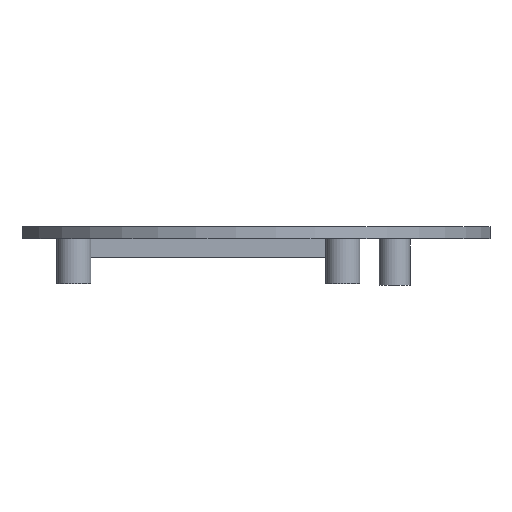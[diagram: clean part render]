
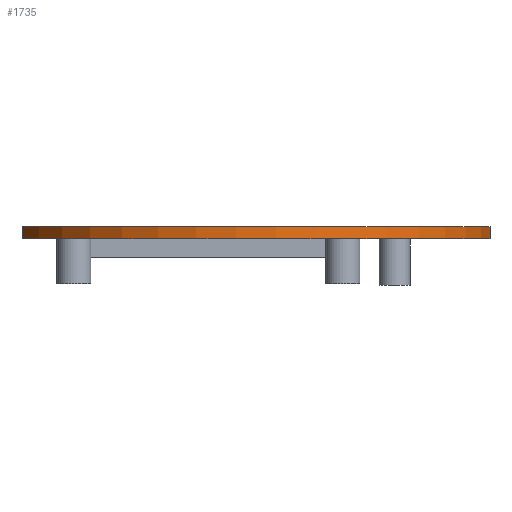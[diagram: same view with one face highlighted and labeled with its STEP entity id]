
A CAD part, left-side view. The second image highlights one B-rep face of the part: STEP entity #1735.
In plain terms, the highlighted cylindrical face has radius 46.9 mm (diameter 93.8 mm), a partial arc.
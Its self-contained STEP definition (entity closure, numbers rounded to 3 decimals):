
#45 = PLANE('',#46);
#46 = AXIS2_PLACEMENT_3D('',#47,#48,#49);
#47 = CARTESIAN_POINT('',(0.,0.,-3.4)
  );
#48 = DIRECTION('',(0.,0.,1.));
#49 = DIRECTION('',(1.,0.,-0.));
#100 = PLANE('',#101);
#101 = AXIS2_PLACEMENT_3D('',#102,#103,#104);
#102 = CARTESIAN_POINT('',(0.,0.,-1.)
  );
#103 = DIRECTION('',(0.,0.,1.));
#104 = DIRECTION('',(1.,0.,-0.));
#265 = VERTEX_POINT('',#266);
#266 = CARTESIAN_POINT('',(-16.236,44.,-3.4));
#279 = PLANE('',#280);
#280 = AXIS2_PLACEMENT_3D('',#281,#282,#283);
#281 = CARTESIAN_POINT('',(-20.,44.,-7.));
#282 = DIRECTION('',(0.,1.,0.));
#283 = DIRECTION('',(0.,0.,1.));
#290 = EDGE_CURVE('',#265,#291,#293,.T.);
#291 = VERTEX_POINT('',#292);
#292 = CARTESIAN_POINT('',(-6.5,-46.447,-3.4));
#293 = SURFACE_CURVE('',#294,(#299,#306),.PCURVE_S1.);
#294 = CIRCLE('',#295,46.9);
#295 = AXIS2_PLACEMENT_3D('',#296,#297,#298);
#296 = CARTESIAN_POINT('',(0.,0.,-3.4));
#297 = DIRECTION('',(0.,0.,1.));
#298 = DIRECTION('',(0.139,-0.99,0.));
#299 = PCURVE('',#45,#300);
#300 = DEFINITIONAL_REPRESENTATION('',(#301),#305);
#301 = CIRCLE('',#302,46.9);
#302 = AXIS2_PLACEMENT_2D('',#303,#304);
#303 = CARTESIAN_POINT('',(0.,0.));
#304 = DIRECTION('',(0.139,-0.99));
#305 = ( GEOMETRIC_REPRESENTATION_CONTEXT(2) 
PARAMETRIC_REPRESENTATION_CONTEXT() REPRESENTATION_CONTEXT('2D SPACE',''
  ) );
#306 = PCURVE('',#307,#312);
#307 = CYLINDRICAL_SURFACE('',#308,46.9);
#308 = AXIS2_PLACEMENT_3D('',#309,#310,#311);
#309 = CARTESIAN_POINT('',(0.,0.,-3.4));
#310 = DIRECTION('',(-0.,-0.,-1.));
#311 = DIRECTION('',(1.,0.,0.));
#312 = DEFINITIONAL_REPRESENTATION('',(#313),#317);
#313 = LINE('',#314,#315);
#314 = CARTESIAN_POINT('',(-4.851,0.));
#315 = VECTOR('',#316,1.);
#316 = DIRECTION('',(-1.,0.));
#317 = ( GEOMETRIC_REPRESENTATION_CONTEXT(2) 
PARAMETRIC_REPRESENTATION_CONTEXT() REPRESENTATION_CONTEXT('2D SPACE',''
  ) );
#334 = PLANE('',#335);
#335 = AXIS2_PLACEMENT_3D('',#336,#337,#338);
#336 = CARTESIAN_POINT('',(-6.5,-57.,-7.));
#337 = DIRECTION('',(1.,0.,0.));
#338 = DIRECTION('',(0.,0.,1.));
#1269 = VERTEX_POINT('',#1270);
#1270 = CARTESIAN_POINT('',(-16.236,44.,-1.));
#1289 = EDGE_CURVE('',#1290,#1269,#1292,.T.);
#1290 = VERTEX_POINT('',#1291);
#1291 = CARTESIAN_POINT('',(-6.5,-46.447,-1.));
#1292 = SURFACE_CURVE('',#1293,(#1298,#1309),.PCURVE_S1.);
#1293 = CIRCLE('',#1294,46.9);
#1294 = AXIS2_PLACEMENT_3D('',#1295,#1296,#1297);
#1295 = CARTESIAN_POINT('',(0.,0.,-1.));
#1296 = DIRECTION('',(-0.,0.,-1.));
#1297 = DIRECTION('',(-0.139,-0.99,0.));
#1298 = PCURVE('',#100,#1299);
#1299 = DEFINITIONAL_REPRESENTATION('',(#1300),#1308);
#1300 = ( BOUNDED_CURVE() B_SPLINE_CURVE(2,(#1301,#1302,#1303,#1304,
#1305,#1306,#1307),.UNSPECIFIED.,.T.,.F.) B_SPLINE_CURVE_WITH_KNOTS((1,2
    ,2,2,2,1),(-2.094,0.,2.094,4.189,
6.283,8.378),.UNSPECIFIED.) CURVE() 
GEOMETRIC_REPRESENTATION_ITEM() RATIONAL_B_SPLINE_CURVE((1.,0.5,1.,0.5,
1.,0.5,1.)) REPRESENTATION_ITEM('') );
#1301 = CARTESIAN_POINT('',(-6.5,-46.447));
#1302 = CARTESIAN_POINT('',(-86.949,-35.189));
#1303 = CARTESIAN_POINT('',(-36.975,28.853));
#1304 = CARTESIAN_POINT('',(13.,92.895));
#1305 = CARTESIAN_POINT('',(43.475,17.595));
#1306 = CARTESIAN_POINT('',(73.949,-57.706));
#1307 = CARTESIAN_POINT('',(-6.5,-46.447));
#1308 = ( GEOMETRIC_REPRESENTATION_CONTEXT(2) 
PARAMETRIC_REPRESENTATION_CONTEXT() REPRESENTATION_CONTEXT('2D SPACE',''
  ) );
#1309 = PCURVE('',#307,#1310);
#1310 = DEFINITIONAL_REPRESENTATION('',(#1311),#1315);
#1311 = LINE('',#1312,#1313);
#1312 = CARTESIAN_POINT('',(-10.857,-2.4));
#1313 = VECTOR('',#1314,1.);
#1314 = DIRECTION('',(1.,-0.));
#1315 = ( GEOMETRIC_REPRESENTATION_CONTEXT(2) 
PARAMETRIC_REPRESENTATION_CONTEXT() REPRESENTATION_CONTEXT('2D SPACE',''
  ) );
#1716 = EDGE_CURVE('',#1290,#291,#1717,.T.);
#1717 = SURFACE_CURVE('',#1718,(#1722,#1728),.PCURVE_S1.);
#1718 = LINE('',#1719,#1720);
#1719 = CARTESIAN_POINT('',(-6.5,-46.447,-3.4));
#1720 = VECTOR('',#1721,1.);
#1721 = DIRECTION('',(-0.,-0.,-1.));
#1722 = PCURVE('',#334,#1723);
#1723 = DEFINITIONAL_REPRESENTATION('',(#1724),#1727);
#1724 = B_SPLINE_CURVE_WITH_KNOTS('',1,(#1725,#1726),.UNSPECIFIED.,.F.,
  .F.,(2,2),(-2.4,0.),.PIECEWISE_BEZIER_KNOTS.);
#1725 = CARTESIAN_POINT('',(6.,-10.553));
#1726 = CARTESIAN_POINT('',(3.6,-10.553));
#1727 = ( GEOMETRIC_REPRESENTATION_CONTEXT(2) 
PARAMETRIC_REPRESENTATION_CONTEXT() REPRESENTATION_CONTEXT('2D SPACE',''
  ) );
#1728 = PCURVE('',#307,#1729);
#1729 = DEFINITIONAL_REPRESENTATION('',(#1730),#1733);
#1730 = B_SPLINE_CURVE_WITH_KNOTS('',1,(#1731,#1732),.UNSPECIFIED.,.F.,
  .F.,(2,2),(-2.4,0.),.PIECEWISE_BEZIER_KNOTS.);
#1731 = CARTESIAN_POINT('',(-10.857,-2.4));
#1732 = CARTESIAN_POINT('',(-10.857,0.));
#1733 = ( GEOMETRIC_REPRESENTATION_CONTEXT(2) 
PARAMETRIC_REPRESENTATION_CONTEXT() REPRESENTATION_CONTEXT('2D SPACE',''
  ) );
#1735 = ADVANCED_FACE('',(#1736),#307,.T.);
#1736 = FACE_BOUND('',#1737,.F.);
#1737 = EDGE_LOOP('',(#1738,#1739,#1758,#1759));
#1738 = ORIENTED_EDGE('',*,*,#290,.F.);
#1739 = ORIENTED_EDGE('',*,*,#1740,.F.);
#1740 = EDGE_CURVE('',#1269,#265,#1741,.T.);
#1741 = SURFACE_CURVE('',#1742,(#1746,#1752),.PCURVE_S1.);
#1742 = LINE('',#1743,#1744);
#1743 = CARTESIAN_POINT('',(-16.236,44.,-3.4));
#1744 = VECTOR('',#1745,1.);
#1745 = DIRECTION('',(-0.,-0.,-1.));
#1746 = PCURVE('',#307,#1747);
#1747 = DEFINITIONAL_REPRESENTATION('',(#1748),#1751);
#1748 = B_SPLINE_CURVE_WITH_KNOTS('',1,(#1749,#1750),.UNSPECIFIED.,.F.,
  .F.,(2,2),(-2.4,0.),.PIECEWISE_BEZIER_KNOTS.);
#1749 = CARTESIAN_POINT('',(-8.207,-2.4));
#1750 = CARTESIAN_POINT('',(-8.207,0.));
#1751 = ( GEOMETRIC_REPRESENTATION_CONTEXT(2) 
PARAMETRIC_REPRESENTATION_CONTEXT() REPRESENTATION_CONTEXT('2D SPACE',''
  ) );
#1752 = PCURVE('',#279,#1753);
#1753 = DEFINITIONAL_REPRESENTATION('',(#1754),#1757);
#1754 = B_SPLINE_CURVE_WITH_KNOTS('',1,(#1755,#1756),.UNSPECIFIED.,.F.,
  .F.,(2,2),(-2.4,0.),.PIECEWISE_BEZIER_KNOTS.);
#1755 = CARTESIAN_POINT('',(6.,3.764));
#1756 = CARTESIAN_POINT('',(3.6,3.764));
#1757 = ( GEOMETRIC_REPRESENTATION_CONTEXT(2) 
PARAMETRIC_REPRESENTATION_CONTEXT() REPRESENTATION_CONTEXT('2D SPACE',''
  ) );
#1758 = ORIENTED_EDGE('',*,*,#1289,.F.);
#1759 = ORIENTED_EDGE('',*,*,#1716,.T.);
